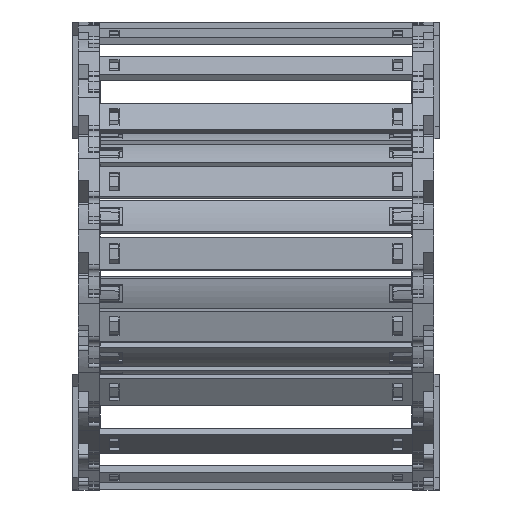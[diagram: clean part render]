
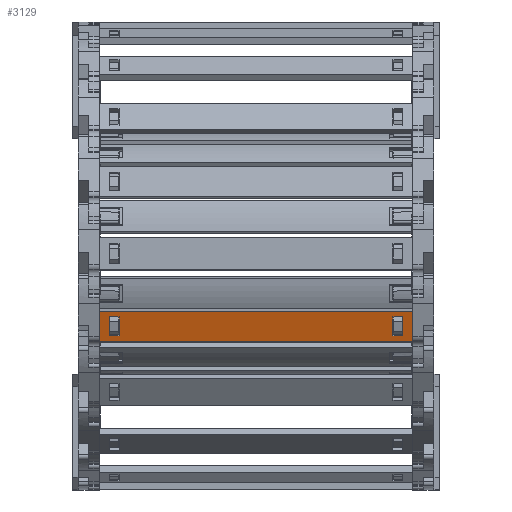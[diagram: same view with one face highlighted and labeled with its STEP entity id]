
A CAD part, top view. The second image highlights one B-rep face of the part: STEP entity #3129.
In plain terms, the highlighted planar face has unit normal (0, -0.302, 0.953) as drawn and (0, 0, -1) by its records, which use the part's own axes.
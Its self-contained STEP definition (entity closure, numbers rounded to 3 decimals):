
#2609=DIRECTION('',(-1.,0.,0.));
#2610=VECTOR('',#2609,18.);
#2611=CARTESIAN_POINT('',(9.,-150.75,0.));
#2612=LINE('',#2611,#2610);
#2647=DIRECTION('',(0.,1.,0.));
#2648=VECTOR('',#2647,5.56);
#2649=CARTESIAN_POINT('',(-5.55,14.2,0.));
#2650=LINE('',#2649,#2648);
#2651=DIRECTION('',(1.,0.,0.));
#2652=VECTOR('',#2651,11.1);
#2653=CARTESIAN_POINT('',(-5.55,19.76,0.));
#2654=LINE('',#2653,#2652);
#2655=DIRECTION('',(0.,-1.,0.));
#2656=VECTOR('',#2655,5.56);
#2657=CARTESIAN_POINT('',(5.55,19.76,0.));
#2658=LINE('',#2657,#2656);
#2659=DIRECTION('',(-1.,0.,0.));
#2660=VECTOR('',#2659,11.1);
#2661=CARTESIAN_POINT('',(5.55,14.2,0.));
#2662=LINE('',#2661,#2660);
#2667=DIRECTION('',(1.,0.,0.));
#2668=VECTOR('',#2667,18.);
#2669=CARTESIAN_POINT('',(-9.,25.25,0.));
#2670=LINE('',#2669,#2668);
#2701=DIRECTION('',(0.,1.,0.));
#2702=VECTOR('',#2701,176.);
#2703=CARTESIAN_POINT('',(-9.,-150.75,0.));
#2704=LINE('',#2703,#2702);
#2830=DIRECTION('',(0.,-1.,0.));
#2831=VECTOR('',#2830,176.);
#2832=CARTESIAN_POINT('',(9.,25.25,0.));
#2833=LINE('',#2832,#2831);
#2895=DIRECTION('',(0.,-1.,0.));
#2896=VECTOR('',#2895,5.56);
#2897=CARTESIAN_POINT('',(-5.55,-139.7,0.));
#2898=LINE('',#2897,#2896);
#2907=DIRECTION('',(0.,1.,0.));
#2908=VECTOR('',#2907,5.56);
#2909=CARTESIAN_POINT('',(5.55,-145.26,0.));
#2910=LINE('',#2909,#2908);
#2919=DIRECTION('',(1.,0.,0.));
#2920=VECTOR('',#2919,11.1);
#2921=CARTESIAN_POINT('',(-5.55,-145.26,0.));
#2922=LINE('',#2921,#2920);
#2931=DIRECTION('',(-1.,0.,0.));
#2932=VECTOR('',#2931,11.1);
#2933=CARTESIAN_POINT('',(5.55,-139.7,0.));
#2934=LINE('',#2933,#2932);
#2983=CARTESIAN_POINT('',(9.,-150.75,0.));
#2984=CARTESIAN_POINT('',(-9.,-150.75,0.));
#2985=VERTEX_POINT('',#2983);
#2986=VERTEX_POINT('',#2984);
#3007=CARTESIAN_POINT('',(-5.55,-139.7,0.));
#3008=CARTESIAN_POINT('',(-5.55,-145.26,0.));
#3009=VERTEX_POINT('',#3007);
#3010=VERTEX_POINT('',#3008);
#3011=CARTESIAN_POINT('',(5.55,-139.7,0.));
#3012=VERTEX_POINT('',#3011);
#3013=CARTESIAN_POINT('',(5.55,-145.26,0.));
#3014=VERTEX_POINT('',#3013);
#3039=CARTESIAN_POINT('',(-9.,25.25,0.));
#3040=CARTESIAN_POINT('',(9.,25.25,0.));
#3041=VERTEX_POINT('',#3039);
#3042=VERTEX_POINT('',#3040);
#3043=CARTESIAN_POINT('',(-5.55,14.2,0.));
#3044=CARTESIAN_POINT('',(-5.55,19.76,0.));
#3045=VERTEX_POINT('',#3043);
#3046=VERTEX_POINT('',#3044);
#3047=CARTESIAN_POINT('',(5.55,19.76,0.));
#3048=VERTEX_POINT('',#3047);
#3049=CARTESIAN_POINT('',(5.55,14.2,0.));
#3050=VERTEX_POINT('',#3049);
#3095=CARTESIAN_POINT('',(8.,-150.75,0.));
#3096=DIRECTION('',(0.,0.,-1.));
#3097=DIRECTION('',(-1.,0.,0.));
#3098=AXIS2_PLACEMENT_3D('',#3095,#3096,#3097);
#3099=PLANE('',#3098);
#3101=ORIENTED_EDGE('',*,*,#3100,.F.);
#3103=ORIENTED_EDGE('',*,*,#3102,.F.);
#3104=ORIENTED_EDGE('',*,*,#3068,.F.);
#3106=ORIENTED_EDGE('',*,*,#3105,.F.);
#3107=EDGE_LOOP('',(#3101,#3103,#3104,#3106));
#3108=FACE_OUTER_BOUND('',#3107,.F.);
#3110=ORIENTED_EDGE('',*,*,#3109,.T.);
#3112=ORIENTED_EDGE('',*,*,#3111,.T.);
#3114=ORIENTED_EDGE('',*,*,#3113,.T.);
#3116=ORIENTED_EDGE('',*,*,#3115,.T.);
#3117=EDGE_LOOP('',(#3110,#3112,#3114,#3116));
#3118=FACE_BOUND('',#3117,.F.);
#3120=ORIENTED_EDGE('',*,*,#3119,.F.);
#3122=ORIENTED_EDGE('',*,*,#3121,.F.);
#3124=ORIENTED_EDGE('',*,*,#3123,.F.);
#3126=ORIENTED_EDGE('',*,*,#3125,.F.);
#3127=EDGE_LOOP('',(#3120,#3122,#3124,#3126));
#3128=FACE_BOUND('',#3127,.F.);
#3129=ADVANCED_FACE('',(#3108,#3118,#3128),#3099,.T.);
#3068=EDGE_CURVE('',#2985,#2986,#2612,.T.);
#3100=EDGE_CURVE('',#3041,#3042,#2670,.T.);
#3102=EDGE_CURVE('',#2986,#3041,#2704,.T.);
#3105=EDGE_CURVE('',#3042,#2985,#2833,.T.);
#3109=EDGE_CURVE('',#3045,#3046,#2650,.T.);
#3111=EDGE_CURVE('',#3046,#3048,#2654,.T.);
#3113=EDGE_CURVE('',#3048,#3050,#2658,.T.);
#3115=EDGE_CURVE('',#3050,#3045,#2662,.T.);
#3119=EDGE_CURVE('',#3009,#3010,#2898,.T.);
#3121=EDGE_CURVE('',#3012,#3009,#2934,.T.);
#3123=EDGE_CURVE('',#3014,#3012,#2910,.T.);
#3125=EDGE_CURVE('',#3010,#3014,#2922,.T.);
